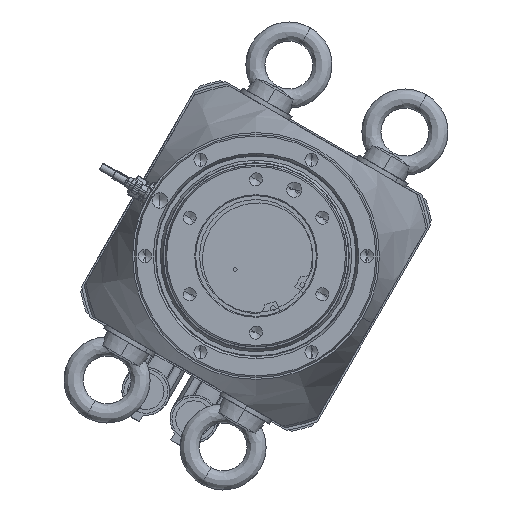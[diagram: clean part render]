
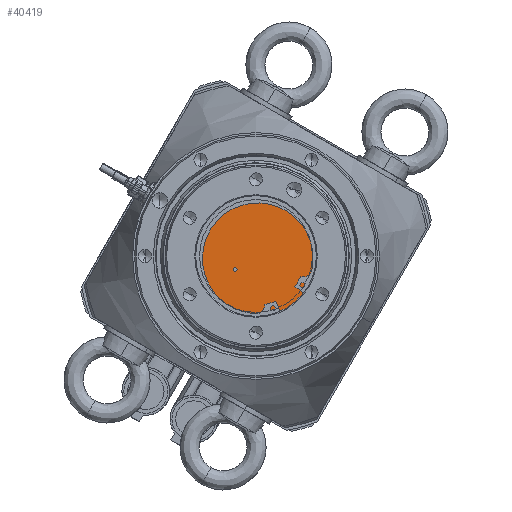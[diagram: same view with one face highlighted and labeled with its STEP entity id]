
A CAD part, front view. The second image highlights one B-rep face of the part: STEP entity #40419.
In plain terms, the highlighted planar face has unit normal (0, -1, 0).
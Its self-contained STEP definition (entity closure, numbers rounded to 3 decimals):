
#701 = CIRCLE ( 'NONE', #27455, 31.5 ) ;
#973 = DIRECTION ( 'NONE',  ( 0., 1., 0. ) ) ;
#5453 = AXIS2_PLACEMENT_3D ( 'NONE', #36518, #973, #8546 ) ;
#5861 = VERTEX_POINT ( 'NONE', #19456 ) ;
#6265 = CARTESIAN_POINT ( 'NONE',  ( 60.392, -247.879, 90.253 ) ) ;
#6774 = VERTEX_POINT ( 'NONE', #29108 ) ;
#8546 = DIRECTION ( 'NONE',  ( 1., 0., 0. ) ) ;
#11659 = EDGE_CURVE ( 'NONE', #32778, #14366, #37061, .T. ) ;
#13672 = FACE_BOUND ( 'NONE', #26276, .T. ) ;
#14366 = VERTEX_POINT ( 'NONE', #49960 ) ;
#14422 = CARTESIAN_POINT ( 'NONE',  ( 71.219, -247.879, 97.194 ) ) ;
#19229 = CARTESIAN_POINT ( 'NONE',  ( 59.392, -247.879, 90.253 ) ) ;
#19456 = CARTESIAN_POINT ( 'NONE',  ( 39.719, -247.879, 97.194 ) ) ;
#21109 = DIRECTION ( 'NONE',  ( 0., 1., 0. ) ) ;
#21630 = DIRECTION ( 'NONE',  ( 0., 1., 0. ) ) ;
#22766 = ORIENTED_EDGE ( 'NONE', *, *, #39782, .F. ) ;
#25915 = ORIENTED_EDGE ( 'NONE', *, *, #33504, .T. ) ;
#26276 = EDGE_LOOP ( 'NONE', ( #39661, #25915 ) ) ;
#26705 = AXIS2_PLACEMENT_3D ( 'NONE', #6265, #40312, #29385 ) ;
#27455 = AXIS2_PLACEMENT_3D ( 'NONE', #28470, #21109, #44173 ) ;
#27649 = AXIS2_PLACEMENT_3D ( 'NONE', #14422, #45430, #33821 ) ;
#28470 = CARTESIAN_POINT ( 'NONE',  ( 71.219, -247.879, 97.194 ) ) ;
#29108 = CARTESIAN_POINT ( 'NONE',  ( 102.719, -247.879, 97.194 ) ) ;
#29385 = DIRECTION ( 'NONE',  ( 1., 0., 0. ) ) ;
#29463 = FACE_OUTER_BOUND ( 'NONE', #38140, .T. ) ;
#32778 = VERTEX_POINT ( 'NONE', #19229 ) ;
#33504 = EDGE_CURVE ( 'NONE', #14366, #32778, #46946, .T. ) ;
#33821 = DIRECTION ( 'NONE',  ( 1., 0., 0. ) ) ;
#36110 = CARTESIAN_POINT ( 'NONE',  ( 71.219, -247.879, 97.194 ) ) ;
#36518 = CARTESIAN_POINT ( 'NONE',  ( 60.392, -247.879, 90.253 ) ) ;
#37061 = CIRCLE ( 'NONE', #5453, 1. ) ;
#37092 = DIRECTION ( 'NONE',  ( 1., 0., 0. ) ) ;
#38140 = EDGE_LOOP ( 'NONE', ( #43204, #22766 ) ) ;
#39661 = ORIENTED_EDGE ( 'NONE', *, *, #11659, .T. ) ;
#39782 = EDGE_CURVE ( 'NONE', #6774, #5861, #42916, .T. ) ;
#40312 = DIRECTION ( 'NONE',  ( 0., 1., 0. ) ) ;
#40419 = ADVANCED_FACE ( 'NONE', ( #29463, #13672 ), #44666, .F. ) ;
#42916 = CIRCLE ( 'NONE', #47775, 31.5 ) ;
#43204 = ORIENTED_EDGE ( 'NONE', *, *, #49388, .F. ) ;
#44173 = DIRECTION ( 'NONE',  ( 1., 0., 0. ) ) ;
#44666 = PLANE ( 'NONE',  #27649 ) ;
#45430 = DIRECTION ( 'NONE',  ( 0., 1., 0. ) ) ;
#46946 = CIRCLE ( 'NONE', #26705, 1. ) ;
#47775 = AXIS2_PLACEMENT_3D ( 'NONE', #36110, #21630, #37092 ) ;
#49388 = EDGE_CURVE ( 'NONE', #5861, #6774, #701, .T. ) ;
#49960 = CARTESIAN_POINT ( 'NONE',  ( 61.392, -247.879, 90.253 ) ) ;
